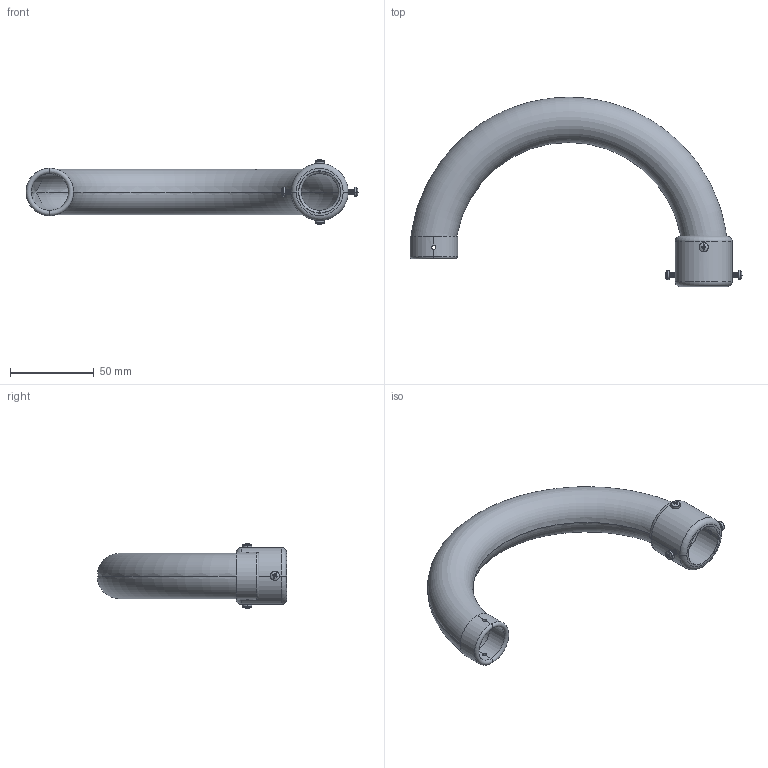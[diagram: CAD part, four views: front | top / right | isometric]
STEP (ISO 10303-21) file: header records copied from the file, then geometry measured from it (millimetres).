
FILE_DESCRIPTION (( 'STEP AP214' ), '1' );
FILE_NAME ('0000002845.STEP', '2015-11-20T07:18:03', ( 'HP' ), ( 'Hewlett-Packard Company' ), 'SwSTEP 2.0', 'SolidWorks 2014', '' );
FILE_SCHEMA (( 'AUTOMOTIVE_DESIGN' ));
Length unit declared in the file: millimetre
Products named in the file (5): pan head cross recess screw_din_ISO 7045 - M3 x 8 - Z --- 8S; pan head cross recess screw_din_ISO 7045 - M3 x 5 - Z --- 5S; 0000002844; 0000002843; 0000002845
Assembly tree (6 placements, depth 2):
  0000002845
    0000002843
    0000002844
    pan head cross recess screw_din_ISO 7045 - M3 x 5 - Z --- 5S  x2
    pan head cross recess screw_din_ISO 7045 - M3 x 8 - Z --- 8S  x2
Bounding box: 198.15 x 112.92 x 38.71 mm (x, y, z)
Volume: 54953.2 mm3; surface area: 48770.9 mm2
Topology: 8 solids, 8 shells, 499 faces, 1299 edges, 798 vertices
Faces by surface type: cone 228, cylinder 136, plane 95, torus 32, sphere 8
Entity records: 10110 total; most frequent: CARTESIAN_POINT 2564, DIRECTION 1597, ORIENTED_EDGE 1454, EDGE_CURVE 727, AXIS2_PLACEMENT_3D 678, VERTEX_POINT 450, CIRCLE 392, EDGE_LOOP 289
